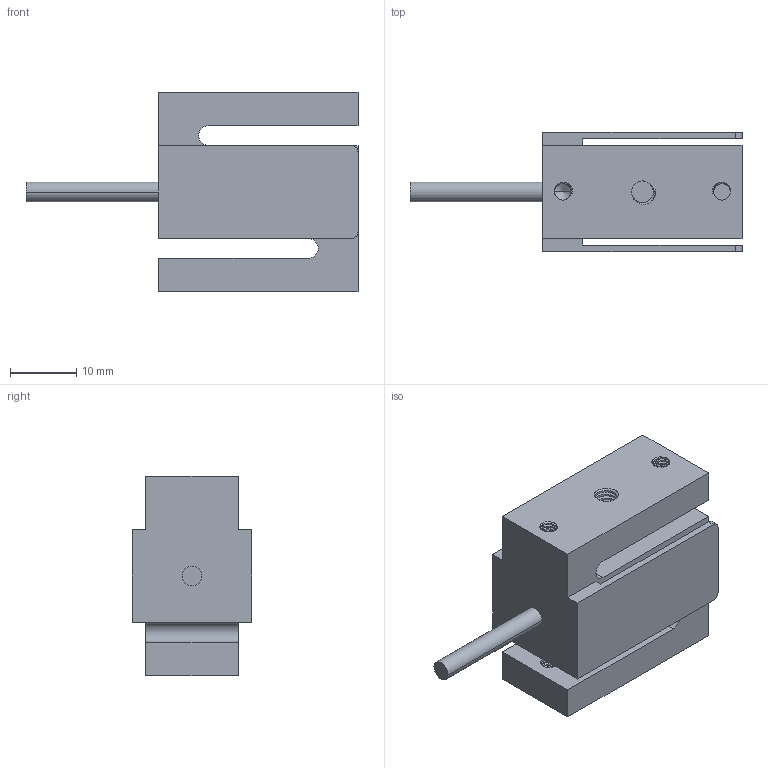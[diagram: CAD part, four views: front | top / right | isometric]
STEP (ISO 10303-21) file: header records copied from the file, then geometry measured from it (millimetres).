
FILE_DESCRIPTION((''),'2;1');
FILE_NAME('2W_10KG_WXT','2022-05-26T',('hzcgq'),(''),'PRO/ENGINEER BY PARAMETRIC TECHNOLOGY CORPORATION, 2015070','PRO/ENGINEER BY PARAMETRIC TECHNOLOGY CORPORATION, 2015070','');
FILE_SCHEMA(('CONFIG_CONTROL_DESIGN'));
Length unit declared in the file: millimetre
Products named in the file (1): 2W_10KG_WXT
Bounding box: 50 x 18 x 30 mm (x, y, z)
Volume: 11540.3 mm3; surface area: 6685.4 mm2
Topology: 1 solids, 1 shells, 183 faces, 498 edges, 316 vertices
Faces by surface type: cylinder 116, bspline 36, plane 27, cone 4
Entity records: 14273 total; most frequent: CARTESIAN_POINT 10220, ORIENTED_EDGE 988, DIRECTION 570, EDGE_CURVE 494, VERTEX_POINT 316, B_SPLINE_CURVE_WITH_KNOTS 250, VECTOR 212, LINE 212
